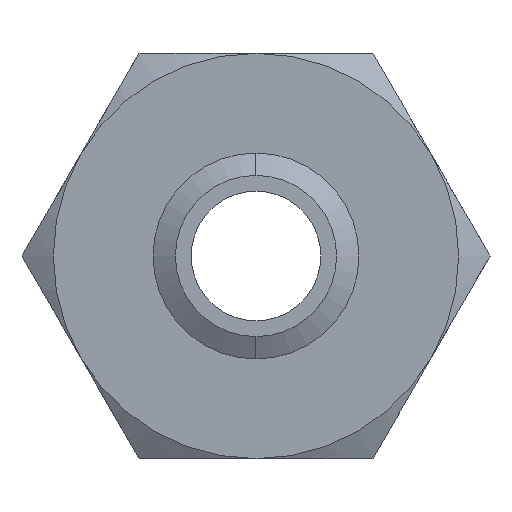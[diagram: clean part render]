
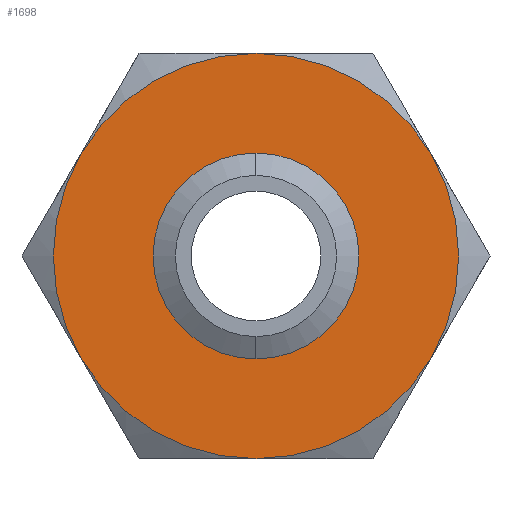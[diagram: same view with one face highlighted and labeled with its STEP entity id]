
A CAD part, front view. The second image highlights one B-rep face of the part: STEP entity #1698.
In plain terms, the highlighted planar face has unit normal (0, -1, 0).
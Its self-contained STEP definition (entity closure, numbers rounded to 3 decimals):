
#662 = CARTESIAN_POINT ( 'NONE',  ( 0., 0., 0. ) ) ;
#663 = AXIS2_PLACEMENT_3D ( 'NONE', #662, #723, #722 ) ;
#664 = CIRCLE ( 'NONE', #663, 25. ) ;
#665 = CARTESIAN_POINT ( 'NONE',  ( -21.651, 0., -12.5 ) ) ;
#722 = DIRECTION ( 'NONE',  ( 0., 0., 1. ) ) ;
#723 = DIRECTION ( 'NONE',  ( 0., 1., 0. ) ) ;
#786 = CIRCLE ( 'NONE', #849, 25. ) ;
#787 = CARTESIAN_POINT ( 'NONE',  ( 21.651, 0., -12.5 ) ) ;
#788 = DIRECTION ( 'NONE',  ( 0., 0., 1. ) ) ;
#789 = DIRECTION ( 'NONE',  ( 0., 1., 0. ) ) ;
#790 = CARTESIAN_POINT ( 'NONE',  ( 0., 0., 0. ) ) ;
#791 = AXIS2_PLACEMENT_3D ( 'NONE', #790, #789, #788 ) ;
#792 = CIRCLE ( 'NONE', #791, 25. ) ;
#793 = DIRECTION ( 'NONE',  ( 0., 0., 1. ) ) ;
#794 = DIRECTION ( 'NONE',  ( 0., 1., 0. ) ) ;
#795 = CARTESIAN_POINT ( 'NONE',  ( 0., 0., 0. ) ) ;
#796 = AXIS2_PLACEMENT_3D ( 'NONE', #795, #794, #793 ) ;
#797 = CIRCLE ( 'NONE', #796, 25. ) ;
#798 = CARTESIAN_POINT ( 'NONE',  ( 0., 0., -25. ) ) ;
#815 = CIRCLE ( 'NONE', #880, 25. ) ;
#816 = CARTESIAN_POINT ( 'NONE',  ( 21.651, 0., 12.5 ) ) ;
#817 = CARTESIAN_POINT ( 'NONE',  ( 0., 0., 25. ) ) ;
#818 = DIRECTION ( 'NONE',  ( 0., 0., 1. ) ) ;
#819 = DIRECTION ( 'NONE',  ( 0., 1., 0. ) ) ;
#820 = CARTESIAN_POINT ( 'NONE',  ( 0., 0., 0. ) ) ;
#821 = AXIS2_PLACEMENT_3D ( 'NONE', #820, #819, #818 ) ;
#822 = DIRECTION ( 'NONE',  ( 0., 0., 1. ) ) ;
#823 = DIRECTION ( 'NONE',  ( 0., 1., 0. ) ) ;
#824 = CIRCLE ( 'NONE', #821, 25. ) ;
#825 = CARTESIAN_POINT ( 'NONE',  ( 14.434, 0., -25. ) ) ;
#826 = AXIS2_PLACEMENT_3D ( 'NONE', #825, #823, #822 ) ;
#827 = PLANE ( 'NONE',  #826 ) ;
#828 = FACE_BOUND ( 'NONE', #1690, .T. ) ;
#829 = FACE_OUTER_BOUND ( 'NONE', #1699, .T. ) ;
#841 = DIRECTION ( 'NONE',  ( 0., 0., -1. ) ) ;
#842 = DIRECTION ( 'NONE',  ( 0., -1., 0. ) ) ;
#843 = CARTESIAN_POINT ( 'NONE',  ( 0., 0., 0. ) ) ;
#844 = AXIS2_PLACEMENT_3D ( 'NONE', #843, #842, #841 ) ;
#845 = CIRCLE ( 'NONE', #844, 9.946 ) ;
#846 = DIRECTION ( 'NONE',  ( 0., 0., 1. ) ) ;
#847 = DIRECTION ( 'NONE',  ( 0., 1., 0. ) ) ;
#848 = CARTESIAN_POINT ( 'NONE',  ( 0., 0., 0. ) ) ;
#849 = AXIS2_PLACEMENT_3D ( 'NONE', #848, #847, #846 ) ;
#877 = DIRECTION ( 'NONE',  ( 0., 0., 1. ) ) ;
#878 = DIRECTION ( 'NONE',  ( 0., 1., 0. ) ) ;
#879 = CARTESIAN_POINT ( 'NONE',  ( 0., 0., 0. ) ) ;
#880 = AXIS2_PLACEMENT_3D ( 'NONE', #879, #878, #877 ) ;
#881 = CARTESIAN_POINT ( 'NONE',  ( -21.651, 0., 12.5 ) ) ;
#977 = DIRECTION ( 'NONE',  ( 0., 0., -1. ) ) ;
#978 = DIRECTION ( 'NONE',  ( 0., -1., 0. ) ) ;
#979 = CARTESIAN_POINT ( 'NONE',  ( 0., 0., 0. ) ) ;
#980 = AXIS2_PLACEMENT_3D ( 'NONE', #979, #978, #977 ) ;
#981 = CIRCLE ( 'NONE', #980, 9.946 ) ;
#990 = CARTESIAN_POINT ( 'NONE',  ( 0., 0., 9.946 ) ) ;
#991 = CARTESIAN_POINT ( 'NONE',  ( 0., 0., -9.946 ) ) ;
#1624 = ORIENTED_EDGE ( 'NONE', *, *, #1625, .F. ) ;
#1625 = EDGE_CURVE ( 'NONE', #1626, #1706, #664, .T. ) ;
#1626 = VERTEX_POINT ( 'NONE', #665 ) ;
#1627 = ORIENTED_EDGE ( 'NONE', *, *, #1683, .F. ) ;
#1683 = EDGE_CURVE ( 'NONE', #1684, #1626, #797, .T. ) ;
#1684 = VERTEX_POINT ( 'NONE', #798 ) ;
#1685 = ORIENTED_EDGE ( 'NONE', *, *, #1686, .F. ) ;
#1686 = EDGE_CURVE ( 'NONE', #1687, #1684, #792, .T. ) ;
#1687 = VERTEX_POINT ( 'NONE', #787 ) ;
#1688 = ORIENTED_EDGE ( 'NONE', *, *, #1689, .F. ) ;
#1689 = EDGE_CURVE ( 'NONE', #1703, #1687, #786, .T. ) ;
#1690 = EDGE_LOOP ( 'NONE', ( #1691, #1692 ) ) ;
#1691 = ORIENTED_EDGE ( 'NONE', *, *, #1805, .F. ) ;
#1692 = ORIENTED_EDGE ( 'NONE', *, *, #1693, .F. ) ;
#1693 = EDGE_CURVE ( 'NONE', #1801, #1799, #845, .T. ) ;
#1698 = ADVANCED_FACE ( 'NONE', ( #829, #828 ), #827, .F. ) ;
#1699 = EDGE_LOOP ( 'NONE', ( #1700, #1704, #1624, #1627, #1685, #1688 ) ) ;
#1700 = ORIENTED_EDGE ( 'NONE', *, *, #1701, .F. ) ;
#1701 = EDGE_CURVE ( 'NONE', #1702, #1703, #824, .T. ) ;
#1702 = VERTEX_POINT ( 'NONE', #817 ) ;
#1703 = VERTEX_POINT ( 'NONE', #816 ) ;
#1704 = ORIENTED_EDGE ( 'NONE', *, *, #1705, .F. ) ;
#1705 = EDGE_CURVE ( 'NONE', #1706, #1702, #815, .T. ) ;
#1706 = VERTEX_POINT ( 'NONE', #881 ) ;
#1799 = VERTEX_POINT ( 'NONE', #991 ) ;
#1801 = VERTEX_POINT ( 'NONE', #990 ) ;
#1805 = EDGE_CURVE ( 'NONE', #1799, #1801, #981, .T. ) ;
